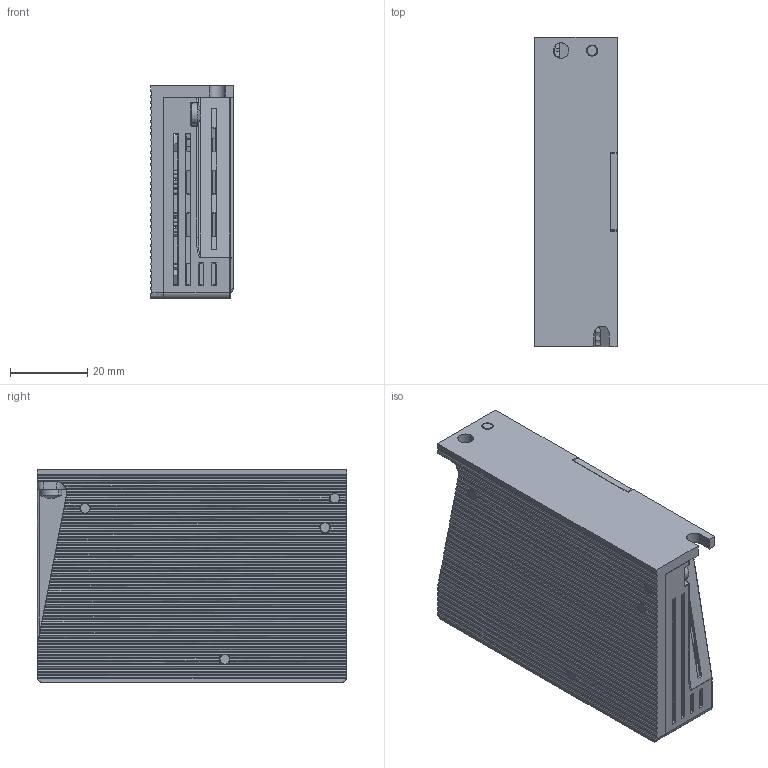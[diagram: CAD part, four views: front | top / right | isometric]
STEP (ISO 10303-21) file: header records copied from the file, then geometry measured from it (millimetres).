
FILE_DESCRIPTION(/* description */ (''),/* implementation_level */ '2;1');
FILE_NAME(/* name */ 'DP3L1-~3',/* time_stamp */ '2023-07-25T11:04:32+08:00',/* author */ (''),/* organization */ (''),/* preprocessor_version */ 'ST-DEVELOPER v15',/* originating_system */ '',/* authorisation */ '');
FILE_SCHEMA (('AUTOMOTIVE_DESIGN'));
Products named in the file (1): Document
Bounding box: 21.3 x 80 x 55 mm (x, y, z)
Surface area: 33983.8 mm2 (no closed solid volume)
Topology: 0 solids, 2309 shells, 2309 faces, 12873 edges, 12857 vertices
Faces by surface type: plane 1185, bspline 1124
Entity records: 143577 total; most frequent: CARTESIAN_POINT 76912, ORIENTED_EDGE 12857, EDGE_CURVE 12857, VERTEX_POINT 12857, B_SPLINE_CURVE_WITH_KNOTS 10078, EDGE_LOOP 2517, PRESENTATION_LAYER_ASSIGNMENT 2309, SHELL_BASED_SURFACE_MODEL 2309
